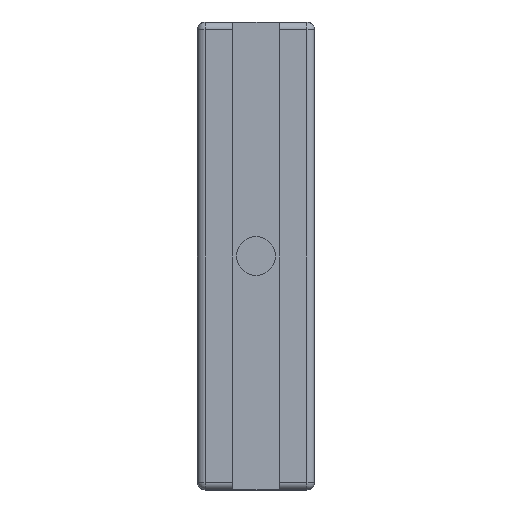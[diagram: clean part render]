
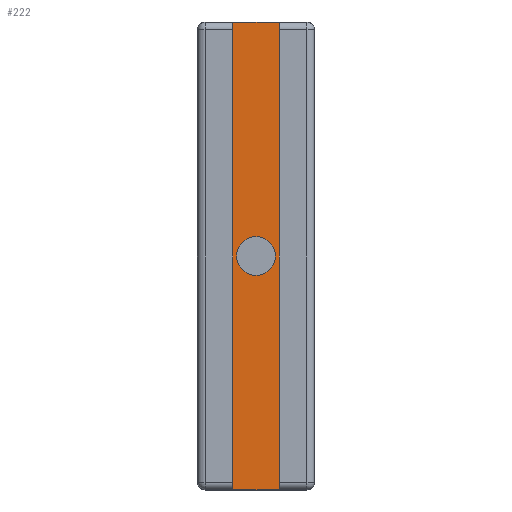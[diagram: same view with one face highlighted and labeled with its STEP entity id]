
A CAD part, left-side view. The second image highlights one B-rep face of the part: STEP entity #222.
In plain terms, the highlighted planar face has unit normal (-1, 0, 0).
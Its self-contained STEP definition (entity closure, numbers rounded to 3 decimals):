
#222 = ADVANCED_FACE( '', ( #470, #471 ), #472, .F. );
#470 = FACE_BOUND( '', #790, .T. );
#471 = FACE_OUTER_BOUND( '', #791, .T. );
#472 = PLANE( '', #792 );
#790 = EDGE_LOOP( '', ( #1158 ) );
#791 = EDGE_LOOP( '', ( #1159, #1160, #1161, #1162 ) );
#792 = AXIS2_PLACEMENT_3D( '', #1163, #1164, #1165 );
#1158 = ORIENTED_EDGE( '', *, *, #1817, .T. );
#1159 = ORIENTED_EDGE( '', *, *, #1818, .T. );
#1160 = ORIENTED_EDGE( '', *, *, #1819, .T. );
#1161 = ORIENTED_EDGE( '', *, *, #1820, .F. );
#1162 = ORIENTED_EDGE( '', *, *, #1821, .F. );
#1163 = CARTESIAN_POINT( '', ( -5.5, 0.6, 14.731 ) );
#1164 = DIRECTION( '', ( 1., 0., 0. ) );
#1165 = DIRECTION( '', ( 0., 0., -1. ) );
#1817 = EDGE_CURVE( '', #2117, #2117, #2118, .T. );
#1818 = EDGE_CURVE( '', #2119, #2120, #2121, .T. );
#1819 = EDGE_CURVE( '', #2120, #2122, #2123, .T. );
#1820 = EDGE_CURVE( '', #2124, #2122, #2125, .T. );
#1821 = EDGE_CURVE( '', #2119, #2124, #2126, .T. );
#2117 = VERTEX_POINT( '', #2501 );
#2118 = CIRCLE( '', #2502, 0.5 );
#2119 = VERTEX_POINT( '', #2503 );
#2120 = VERTEX_POINT( '', #2504 );
#2121 = LINE( '', #2505, #2506 );
#2122 = VERTEX_POINT( '', #2507 );
#2123 = LINE( '', #2508, #2509 );
#2124 = VERTEX_POINT( '', #2510 );
#2125 = LINE( '', #2511, #2512 );
#2126 = LINE( '', #2513, #2514 );
#2501 = CARTESIAN_POINT( '', ( -5.5, -0.5, 0. ) );
#2502 = AXIS2_PLACEMENT_3D( '', #2909, #2910, #2911 );
#2503 = CARTESIAN_POINT( '', ( -5.5, 0.6, 6. ) );
#2504 = CARTESIAN_POINT( '', ( -5.5, 0.6, -6. ) );
#2505 = CARTESIAN_POINT( '', ( -5.5, 0.6, 14.731 ) );
#2506 = VECTOR( '', #2912, 1000. );
#2507 = CARTESIAN_POINT( '', ( -5.5, -0.6, -6. ) );
#2508 = CARTESIAN_POINT( '', ( -5.5, -1.5, -6. ) );
#2509 = VECTOR( '', #2913, 1000. );
#2510 = CARTESIAN_POINT( '', ( -5.5, -0.6, 6. ) );
#2511 = CARTESIAN_POINT( '', ( -5.5, -0.6, 14.731 ) );
#2512 = VECTOR( '', #2914, 1000. );
#2513 = CARTESIAN_POINT( '', ( -5.5, -1.5, 6. ) );
#2514 = VECTOR( '', #2915, 1000. );
#2909 = CARTESIAN_POINT( '', ( -5.5, 0., 0. ) );
#2910 = DIRECTION( '', ( 1., 0., 0. ) );
#2911 = DIRECTION( '', ( 0., -1., 0. ) );
#2912 = DIRECTION( '', ( 0., 0., -1. ) );
#2913 = DIRECTION( '', ( 0., -1., 0. ) );
#2914 = DIRECTION( '', ( 0., 0., -1. ) );
#2915 = DIRECTION( '', ( 0., -1., 0. ) );
